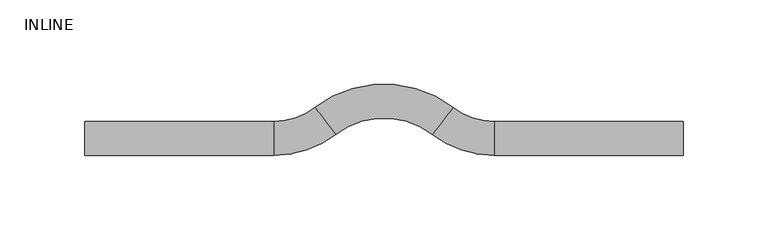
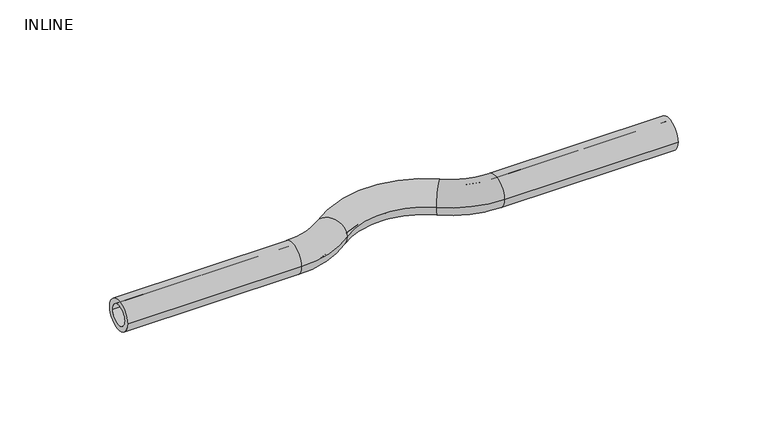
"""IFC4 building model written with IfcOpenShell, lengths in millimetres: pipe fitting geometry, Aquatherm - Cross Over : INLINE."""

import ifcopenshell
import ifcopenshell.guid

model = None  # the IFC model being written
_history = None  # IfcOwnerHistory: only IFC2X3 demands one
_inside = {}  # id of a spatial element -> (the spatial element, [elements in it])
_under = {}  # id of a project, library or spatial element -> (it, [spatial elements below it])
_declared = {}  # id of a project -> (the project, [libraries it declares])
_typed = {}  # id of a type object -> (the type object, [elements of that type])
_made_of = {}  # id of a material, layer set ... -> (it, [elements and type objects made of it])


def new_model(schema):
    """Start an empty IFC model of exactly this schema.

    Asked for "IFC4X3", IfcOpenShell would pick the latest addendum, in which some entities
    have other attributes; the version numbers below select the first issue.
    IFC2X3 requires an IfcOwnerHistory on every rooted entity: one is made here for all.
    """
    global model, _history
    if schema == "IFC4X3":
        model = ifcopenshell.file(schema_version=(4, 3, 0, 0))
    else:
        model = ifcopenshell.file(schema=schema)
    _inside.clear()
    _under.clear()
    _declared.clear()
    _typed.clear()
    _made_of.clear()
    _history = None
    if model.schema == "IFC2X3":
        org = make("IfcOrganization", Name="unknown")
        user = make(
            "IfcPersonAndOrganization",
            ThePerson=make("IfcPerson", FamilyName="unknown"),
            TheOrganization=org,
        )
        app = make(
            "IfcApplication",
            ApplicationDeveloper=org,
            Version="unknown",
            ApplicationFullName="unknown",
            ApplicationIdentifier="unknown",
        )
        _history = make(
            "IfcOwnerHistory",
            OwningUser=user,
            OwningApplication=app,
            ChangeAction="ADDED",
            CreationDate=0,
        )
    return model


def make(cls, **values):
    """One entity of the class cls with the attributes given. An attribute that is None is left unset."""
    return model.create_entity(
        cls, **{name: value for name, value in values.items() if value is not None}
    )


def rooted(cls, **values):
    """An entity with a GlobalId (a new one), such as an element, a storey or a relation."""
    return make(cls, GlobalId=ifcopenshell.guid.new(), OwnerHistory=_history, **values)


def si_unit(unit_type, name, prefix=None):
    """IfcSIUnit, for example si_unit("LENGTHUNIT", "METRE", prefix="MILLI")."""
    return make("IfcSIUnit", UnitType=unit_type, Prefix=prefix, Name=name)


def assignment(units):
    """IfcUnitAssignment: the units of a project."""
    return None if units is None else make("IfcUnitAssignment", Units=units)


def point(xyz):
    """IfcCartesianPoint."""
    return None if xyz is None else make("IfcCartesianPoint", Coordinates=xyz)


def direction(xyz):
    """IfcDirection."""
    return None if xyz is None else make("IfcDirection", DirectionRatios=xyz)


def frame(location, z_axis=None, x_axis=None):
    """IfcAxis2Placement3D, a coordinate frame: its origin and axes. An axis left out is left unset."""
    return make(
        "IfcAxis2Placement3D",
        Location=point(location),
        Axis=direction(z_axis),
        RefDirection=direction(x_axis),
    )


def origin():
    """The frame at (0, 0, 0) with its axes left unset."""
    return frame((0.0, 0.0, 0.0))


def place(relative_to, where):
    """IfcLocalPlacement: puts the frame where relative to a parent placement (None: the world)."""
    return make(
        "IfcLocalPlacement", PlacementRelTo=relative_to, RelativePlacement=where
    )


def context(
    kind, dimensions, precision=None, world=None, true_north=None, identifier=None
):
    """IfcGeometricRepresentationContext, for example the 3D "Model" context."""
    return make(
        "IfcGeometricRepresentationContext",
        ContextIdentifier=identifier,
        ContextType=kind,
        CoordinateSpaceDimension=dimensions,
        Precision=precision,
        WorldCoordinateSystem=world,
        TrueNorth=true_north,
    )


def project(units=None, contexts=None):
    """IfcProject with its units and contexts."""
    return rooted(
        "IfcProject",
        Name="project",
        RepresentationContexts=contexts,
        UnitsInContext=assignment(units),
    )


def spatial(cls, under=None, at=None, **own):
    """A site, building, storey or space (cls), placed at a placement, below another one or the project."""
    s = rooted(cls, ObjectPlacement=at, **own)
    if under is not None:
        _under.setdefault(under.id(), (under, []))[1].append(s)
    return s


def polyline(points):
    """IfcPolyline through the points."""
    return make("IfcPolyline", Points=[point(p) for p in points])


def circle_curve(where, radius):
    """IfcCircle in the frame where."""
    return make("IfcCircle", Position=where, Radius=radius)


def ellipse_curve(where, semi_axis1, semi_axis2):
    """IfcEllipse in the frame where."""
    return make(
        "IfcEllipse", Position=where, SemiAxis1=semi_axis1, SemiAxis2=semi_axis2
    )


def trimmed(basis, trim1, trim2, sense, master):
    """IfcTrimmedCurve: the piece of a basis curve between two trims."""
    return make(
        "IfcTrimmedCurve",
        BasisCurve=basis,
        Trim1=trim1,
        Trim2=trim2,
        SenseAgreement=sense,
        MasterRepresentation=master,
    )


def shape(context_of_items, identifier, shape_type, items):
    """IfcShapeRepresentation: the items that make up one representation, for example the "Body"."""
    return make(
        "IfcShapeRepresentation",
        ContextOfItems=context_of_items,
        RepresentationIdentifier=identifier,
        RepresentationType=shape_type,
        Items=items,
    )


def source(mapping_origin, context_of_items, identifier, shape_type, items):
    """IfcRepresentationMap: a shape defined once, which mapped items show again and again."""
    return make(
        "IfcRepresentationMap",
        MappingOrigin=mapping_origin,
        MappedRepresentation=shape(context_of_items, identifier, shape_type, items),
    )


def transform(
    local_origin,
    x_axis=None,
    y_axis=None,
    z_axis=None,
    scale=None,
    scale2=None,
    scale3=None,
    uniform=True,
):
    """IfcCartesianTransformationOperator3D, or its non-uniform kind. x_axis, y_axis, z_axis: its Axis1, 2, 3."""
    if uniform:
        return make(
            "IfcCartesianTransformationOperator3D",
            Axis1=direction(x_axis),
            Axis2=direction(y_axis),
            LocalOrigin=point(local_origin),
            Scale=scale,
            Axis3=direction(z_axis),
        )
    return make(
        "IfcCartesianTransformationOperator3DnonUniform",
        Axis1=direction(x_axis),
        Axis2=direction(y_axis),
        LocalOrigin=point(local_origin),
        Scale=scale,
        Axis3=direction(z_axis),
        Scale2=scale2,
        Scale3=scale3,
    )


def mapped(mapping_source, mapping_target):
    """IfcMappedItem: shows the shape of a source again, moved by a transform."""
    return make(
        "IfcMappedItem", MappingSource=mapping_source, MappingTarget=mapping_target
    )


def made_of(thing, what):
    """Note that an element or type object is made of a material, layer set ...; save() writes the relation."""
    if what is not None:
        _made_of.setdefault(what.id(), (what, []))[1].append(thing)
    return thing


def element(
    cls,
    number,
    at=None,
    inside=None,
    cuts=None,
    type_object=None,
    material=None,
    context=None,
    identifier="Body",
    shape_type=None,
    held_by="IfcProductDefinitionShape",
    body=None,
    shapes=None,
    **own,
):
    """One element of the class cls, such as IfcWall. Its Tag is "e" and its number.

    at: its placement. inside: the storey or other place that contains it. cuts: it is an
    opening in that element (IfcRelVoidsElement). A single representation is given by context,
    identifier, shape_type and body (its items); several are given by shapes. held_by: the class
    of the entity that holds the representations. save() writes the other relations.
    """
    e = rooted(cls, Tag="e%d" % number, ObjectPlacement=at, **own)
    if body is not None:
        shapes = [shape(context, identifier, shape_type, body)]
    if shapes is not None:
        e.Representation = make(held_by, Representations=shapes)
    if inside is not None:
        _inside.setdefault(inside.id(), (inside, []))[1].append(e)
    if cuts is not None:
        rooted(
            "IfcRelVoidsElement", RelatingBuildingElement=cuts, RelatedOpeningElement=e
        )
    if type_object is not None:
        _typed.setdefault(type_object.id(), (type_object, []))[1].append(e)
    return made_of(e, material)


def aggregate(whole, parts):
    """IfcRelAggregates: a whole, such as a stair, and the parts it consists of."""
    return rooted("IfcRelAggregates", RelatingObject=whole, RelatedObjects=parts)


def save(model, path):
    """Write the relations noted so far, then the file.

    IfcRelAggregates (storeys below a building ...), IfcRelContainedInSpatialStructure (elements
    in a storey), IfcRelDefinesByType, IfcRelAssociatesMaterial and IfcRelDeclares: one each for
    every whole, place, type object, material and project.
    """
    for whole, parts in _under.values():
        aggregate(whole, parts)
    for where, things in _inside.values():
        rooted(
            "IfcRelContainedInSpatialStructure",
            RelatedElements=things,
            RelatingStructure=where,
        )
    for kind, things in _typed.values():
        rooted("IfcRelDefinesByType", RelatedObjects=things, RelatingType=kind)
    for what, things in _made_of.values():
        rooted("IfcRelAssociatesMaterial", RelatedObjects=things, RelatingMaterial=what)
    for by, libraries in _declared.values():
        rooted("IfcRelDeclares", RelatingContext=by, RelatedDefinitions=libraries)
    model.write(path)


def plane_surface(at):
    """IfcPlane: the flat surface through the origin of the frame at, square to its z axis."""
    return make("IfcPlane", Position=at)


def cylinder_surface(at, radius):
    """IfcCylindricalSurface: all points at the distance radius from the z axis of the frame at."""
    return make("IfcCylindricalSurface", Position=at, Radius=radius)


def revolved_surface(curve, axis_point, axis_direction):
    """IfcSurfaceOfRevolution: the curve turned about the line through axis_point along axis_direction."""
    return make(
        "IfcSurfaceOfRevolution",
        SweptCurve=make("IfcArbitraryOpenProfileDef", ProfileType="CURVE", Curve=curve),
        AxisPosition=make("IfcAxis1Placement", Location=point(axis_point), Axis=direction(axis_direction)),
    )


def advanced_brep(points, edges, surfaces, faces):
    """IfcAdvancedBrep: a solid bounded by faces that lie on surfaces and meet in shared edges.

    An edge is (start, end): straight between two places in points (the first is 0);
    or (start, end, curve); or (start, end, curve, False) where it runs against its curve.
    A face is (place in surfaces, loops), or (place, loops, False) where it looks against
    its surface's normal. A loop lists edges by number (the first is 1), with a minus sign
    where the edge is run from its end to its start. The first loop is the outer one.
    """
    corners = [point(p) for p in points]
    vertices = [make("IfcVertexPoint", VertexGeometry=c) for c in corners]
    made = []
    for start, end, *more in edges:
        made.append(
            make(
                "IfcEdgeCurve",
                EdgeStart=vertices[start],
                EdgeEnd=vertices[end],
                EdgeGeometry=more[0] if more else make("IfcPolyline", Points=[corners[start], corners[end]]),
                SameSense=more[1] if len(more) > 1 else True,
            )
        )
    hull = []
    for where, loops, *sense in faces:
        bounds = []
        for j, loop in enumerate(loops):
            ring = [make("IfcOrientedEdge", EdgeElement=made[abs(k) - 1], Orientation=k > 0) for k in loop]
            bounds.append(
                make(
                    "IfcFaceOuterBound" if j == 0 else "IfcFaceBound",
                    Bound=make("IfcEdgeLoop", EdgeList=ring),
                    Orientation=True,
                )
            )
        hull.append(make("IfcAdvancedFace", Bounds=bounds, FaceSurface=surfaces[where], SameSense=sense[0] if sense else True))
    return make("IfcAdvancedBrep", Outer=make("IfcClosedShell", CfsFaces=hull))


def inline_3b5fefaf(model_context):
    return source(origin(), model_context, "Body", "AdvancedBrep", [
        advanced_brep(
        [(-176.53, -10.033, 0.0), (-176.53, 10.033, 0.0), (-176.53, -6.604, 0.0), (-176.53, 6.604, 0.0), (-65.097876, -6.604, 0.0), (-65.097876, 6.604, 0.0), (-65.097876, -10.033, 0.0), (-65.097876, 10.033, 0.0), (-38.656696, 15.5796722, 0.0), (-30.6161032, 5.1011164, 0.0), (-40.7441575, 18.3000665, 0.0), (-28.5286416, 2.3807221, 0.0), (38.656696, 15.5796722, 0.0), (30.6161032, 5.1011164, 0.0), (40.7441575, 18.3000665, 0.0), (28.5286416, 2.3807221, 0.0), (65.097876, 6.604, 0.0), (65.097876, -6.604, 0.0), (65.097876, 10.033, 0.0), (65.097876, -10.033, 0.0), (176.53, -10.033, 0.0), (176.53, 10.033, 0.0), (176.53, -6.604, 0.0), (176.53, 6.604, 0.0)],
        [
            (0, 1, circle_curve(frame((-176.53, 0.0, 0.0), z_axis=(-1.0, 0.0, 0.0), x_axis=(0.0, 1.0, 0.0)), 10.033)),
            (1, 0, circle_curve(frame((-176.53, 0.0, 0.0), z_axis=(-1.0, 0.0, 0.0), x_axis=(0.0, 1.0, 0.0)), 10.033)),
            (2, 3, circle_curve(frame((-176.53, 0.0, 0.0), z_axis=(1.0, 0.0, 0.0), x_axis=(0.0, 1.0, 0.0)), 6.604)),
            (3, 2, circle_curve(frame((-176.53, 0.0, 0.0), z_axis=(1.0, 0.0, 0.0), x_axis=(0.0, 1.0, 0.0)), 6.604)),
            (2, 4),
            (4, 5, circle_curve(frame((-65.097876, 0.0, 0.0), z_axis=(1.0, 0.0, 0.0), x_axis=(0.0, 1.0, 0.0)), 6.604)),
            (5, 3),
            (5, 4, circle_curve(frame((-65.097876, 0.0, 0.0), z_axis=(1.0, 0.0, 0.0), x_axis=(0.0, 1.0, 0.0)), 6.604)),
            (0, 6),
            (6, 7, circle_curve(frame((-65.097876, 0.0, 0.0), z_axis=(-1.0, 0.0, 0.0), x_axis=(0.0, 1.0, 0.0)), 10.033)),
            (7, 1),
            (7, 6, circle_curve(frame((-65.097876, 0.0, 0.0), z_axis=(-1.0, 0.0, 0.0), x_axis=(0.0, 1.0, 0.0)), 10.033)),
            (8, 5, circle_curve(frame((-65.097876, 50.038, 0.0), z_axis=(0.0, 0.0, -1.0), x_axis=(0.0, -1.0, 0.0)), 43.434)),
            (4, 9, circle_curve(frame((-65.097876, 50.038, 0.0), z_axis=(0.0, 0.0, 1.0), x_axis=(0.0, -1.0, 0.0)), 56.642)),
            (9, 8, circle_curve(frame((-34.6363996, 10.3403943, 0.0), z_axis=(0.7933491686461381, 0.6087668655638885, 0.0), x_axis=(-0.6087668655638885, 0.7933491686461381, 0.0)), 6.604)),
            (8, 9, circle_curve(frame((-34.6363996, 10.3403943, 0.0), z_axis=(0.7933491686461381, 0.6087668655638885, 0.0), x_axis=(-0.6087668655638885, 0.7933491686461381, 0.0)), 6.604)),
            (10, 7, circle_curve(frame((-65.097876, 50.038, 0.0), z_axis=(0.0, 0.0, -1.0), x_axis=(0.0, -1.0, 0.0)), 40.005)),
            (6, 11, circle_curve(frame((-65.097876, 50.038, 0.0), z_axis=(0.0, 0.0, 1.0), x_axis=(0.0, -1.0, 0.0)), 60.071)),
            (11, 10, circle_curve(frame((-34.6363996, 10.3403943, 0.0), z_axis=(-0.7933491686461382, -0.6087668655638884, 0.0), x_axis=(-0.6087668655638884, 0.7933491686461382, 0.0)), 10.033)),
            (10, 11, circle_curve(frame((-34.6363996, 10.3403943, 0.0), z_axis=(-0.7933491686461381, -0.6087668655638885, 0.0), x_axis=(-0.6087668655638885, 0.7933491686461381, 0.0)), 10.033)),
            (12, 8, circle_curve(frame((0.0, -34.798, 0.0), z_axis=(0.0, 0.0, 1.0), x_axis=(-0.6087668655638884, 0.7933491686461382, 0.0)), 63.5)),
            (9, 13, circle_curve(frame((0.0, -34.798, 0.0), z_axis=(0.0, 0.0, -1.0), x_axis=(-0.6087668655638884, 0.7933491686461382, 0.0)), 50.292)),
            (13, 12, circle_curve(frame((34.6363996, 10.3403943, 0.0), z_axis=(0.7933491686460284, -0.6087668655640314, 0.0), x_axis=(0.6087668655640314, 0.7933491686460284, 0.0)), 6.604)),
            (12, 13, circle_curve(frame((34.6363996, 10.3403943, 0.0), z_axis=(0.7933491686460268, -0.6087668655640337, 0.0), x_axis=(0.6087668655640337, 0.7933491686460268, 0.0)), 6.604)),
            (14, 10, circle_curve(frame((0.0, -34.798, 0.0), z_axis=(0.0, 0.0, 1.0), x_axis=(-0.6087668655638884, 0.7933491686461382, 0.0)), 66.929)),
            (11, 15, circle_curve(frame((0.0, -34.798, 0.0), z_axis=(0.0, 0.0, -1.0), x_axis=(-0.6087668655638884, 0.7933491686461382, 0.0)), 46.863)),
            (15, 14, circle_curve(frame((34.6363996, 10.3403943, 0.0), z_axis=(-0.793349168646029, 0.6087668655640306, 0.0), x_axis=(0.6087668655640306, 0.793349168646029, 0.0)), 10.033)),
            (14, 15, circle_curve(frame((34.6363996, 10.3403943, 0.0), z_axis=(-0.7933491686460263, 0.6087668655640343, 0.0), x_axis=(0.6087668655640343, 0.7933491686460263, 0.0)), 10.033)),
            (16, 12, circle_curve(frame((65.097876, 50.038, 0.0), z_axis=(0.0, 0.0, -1.0), x_axis=(-0.6087668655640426, -0.7933491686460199, 0.0)), 43.434)),
            (13, 17, circle_curve(frame((65.097876, 50.038, 0.0), z_axis=(0.0, 0.0, 1.0), x_axis=(-0.6087668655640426, -0.7933491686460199, 0.0)), 56.642)),
            (17, 16, circle_curve(frame((65.097876, 0.0, 0.0), z_axis=(1.0, 0.0, 0.0), x_axis=(0.0, 1.0, 0.0)), 6.604)),
            (16, 17, circle_curve(frame((65.097876, 0.0, 0.0), z_axis=(1.0, 0.0, 0.0), x_axis=(0.0, 1.0, 0.0)), 6.604)),
            (18, 14, circle_curve(frame((65.097876, 50.038, 0.0), z_axis=(0.0, 0.0, -1.0), x_axis=(-0.6087668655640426, -0.7933491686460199, 0.0)), 40.005)),
            (15, 19, circle_curve(frame((65.097876, 50.038, 0.0), z_axis=(0.0, 0.0, 1.0), x_axis=(-0.6087668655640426, -0.7933491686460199, 0.0)), 60.071)),
            (19, 18, circle_curve(frame((65.097876, 0.0, 0.0), z_axis=(-1.0, 0.0, 0.0), x_axis=(0.0, 1.0, 0.0)), 10.033)),
            (18, 19, circle_curve(frame((65.097876, 0.0, 0.0), z_axis=(-1.0, 0.0, 0.0), x_axis=(0.0, 1.0, 0.0)), 10.033)),
            (20, 21, circle_curve(frame((176.53, 0.0, 0.0), z_axis=(1.0, 0.0, 0.0), x_axis=(0.0, 1.0, 0.0)), 10.033)),
            (21, 20, circle_curve(frame((176.53, 0.0, 0.0), z_axis=(1.0, 0.0, 0.0), x_axis=(0.0, 1.0, 0.0)), 10.033)),
            (22, 23, circle_curve(frame((176.53, 0.0, 0.0), z_axis=(-1.0, 0.0, 0.0), x_axis=(0.0, 1.0, 0.0)), 6.604)),
            (23, 22, circle_curve(frame((176.53, 0.0, 0.0), z_axis=(-1.0, 0.0, 0.0), x_axis=(0.0, 1.0, 0.0)), 6.604)),
            (17, 22),
            (23, 16),
            (19, 20),
            (21, 18),
        ],
        [
            plane_surface(frame((-176.53, 0.0, 0.0), z_axis=(-1.0, 0.0, 0.0), x_axis=(0.0, 0.0, 1.0))),
            revolved_surface(polyline([(-65.097876, 6.604, 0.0), (-176.53, 6.604, 0.0)]), (-176.53, 0.0, 0.0), (1.0, 0.0, 0.0)),
            cylinder_surface(frame((-176.53, 0.0, 0.0), z_axis=(-1.0, 0.0, 0.0), x_axis=(0.0, 1.0, 0.0)), 10.033),
            revolved_surface(trimmed(ellipse_curve(frame((-65.097876, 0.0, 0.0), z_axis=(1.0, 0.0, 0.0), x_axis=(0.0, 1.0, 0.0)), 6.604, 6.604), [point((-65.097876, -6.604, 0.0))], [point((-65.097876, 6.604, 0.0))], True, "CARTESIAN"), (-65.097876, 50.038, 0.0), (0.0, 0.0, 1.0)),
            revolved_surface(trimmed(ellipse_curve(frame((-65.097876, 0.0, 0.0), z_axis=(1.0, 0.0, 0.0), x_axis=(0.0, 1.0, 0.0)), 6.604, 6.604), [point((-65.097876, 6.604, 0.0))], [point((-65.097876, -6.604, 0.0))], True, "CARTESIAN"), (-65.097876, 50.038, 0.0), (0.0, 0.0, 1.0)),
            revolved_surface(trimmed(ellipse_curve(frame((-65.097876, 0.0, 0.0), z_axis=(-1.0, 0.0, 0.0), x_axis=(0.0, 1.0, 0.0)), 10.033, 10.033), [point((-65.097876, -10.033, 0.0))], [point((-65.097876, 10.033, 0.0))], True, "CARTESIAN"), (-65.097876, 50.038, 0.0), (0.0, 0.0, 1.0)),
            revolved_surface(trimmed(ellipse_curve(frame((-65.097876, 0.0, 0.0), z_axis=(-1.0, 0.0, 0.0), x_axis=(0.0, 1.0, 0.0)), 10.033, 10.033), [point((-65.097876, 10.033, 0.0))], [point((-65.097876, -10.033, 0.0))], True, "CARTESIAN"), (-65.097876, 50.038, 0.0), (0.0, 0.0, 1.0)),
            revolved_surface(trimmed(ellipse_curve(frame((-34.6363996, 10.3403943, 0.0), z_axis=(0.7933491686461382, 0.6087668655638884, 0.0), x_axis=(-0.6087668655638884, 0.7933491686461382, 0.0)), 6.604, 6.604), [point((-30.6161032, 5.1011164, 0.0))], [point((-38.656696, 15.5796722, 0.0))], True, "CARTESIAN"), (0.0, -34.798, 0.0), (0.0, 0.0, -1.0)),
            revolved_surface(trimmed(ellipse_curve(frame((-34.6363996, 10.3403943, 0.0), z_axis=(0.7933491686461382, 0.6087668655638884, 0.0), x_axis=(-0.6087668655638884, 0.7933491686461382, 0.0)), 6.604, 6.604), [point((-38.656696, 15.5796722, 0.0))], [point((-30.6161032, 5.1011164, 0.0))], True, "CARTESIAN"), (0.0, -34.798, 0.0), (0.0, 0.0, -1.0)),
            revolved_surface(trimmed(ellipse_curve(frame((-34.6363996, 10.3403943, 0.0), z_axis=(-0.7933491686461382, -0.6087668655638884, 0.0), x_axis=(-0.6087668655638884, 0.7933491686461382, 0.0)), 10.033, 10.033), [point((-28.5286416, 2.3807221, 0.0))], [point((-40.7441575, 18.3000665, 0.0))], True, "CARTESIAN"), (0.0, -34.798, 0.0), (0.0, 0.0, -1.0)),
            revolved_surface(trimmed(ellipse_curve(frame((-34.6363996, 10.3403943, 0.0), z_axis=(-0.7933491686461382, -0.6087668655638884, 0.0), x_axis=(-0.6087668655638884, 0.7933491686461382, 0.0)), 10.033, 10.033), [point((-40.7441575, 18.3000665, 0.0))], [point((-28.5286416, 2.3807221, 0.0))], True, "CARTESIAN"), (0.0, -34.798, 0.0), (0.0, 0.0, -1.0)),
            revolved_surface(trimmed(ellipse_curve(frame((34.6363996, 10.3403943, 0.0), z_axis=(0.7933491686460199, -0.6087668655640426, 0.0), x_axis=(0.6087668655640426, 0.7933491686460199, 0.0)), 6.604, 6.604), [point((30.6161032, 5.1011164, 0.0))], [point((38.656696, 15.5796722, 0.0))], True, "CARTESIAN"), (65.097876, 50.038, 0.0), (0.0, 0.0, 1.0)),
            revolved_surface(trimmed(ellipse_curve(frame((34.6363996, 10.3403943, 0.0), z_axis=(0.7933491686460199, -0.6087668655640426, 0.0), x_axis=(0.6087668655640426, 0.7933491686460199, 0.0)), 6.604, 6.604), [point((38.656696, 15.5796722, 0.0))], [point((30.6161032, 5.1011164, 0.0))], True, "CARTESIAN"), (65.097876, 50.038, 0.0), (0.0, 0.0, 1.0)),
            revolved_surface(trimmed(ellipse_curve(frame((34.6363996, 10.3403943, 0.0), z_axis=(-0.7933491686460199, 0.6087668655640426, 0.0), x_axis=(0.6087668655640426, 0.7933491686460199, 0.0)), 10.033, 10.033), [point((28.5286416, 2.3807221, 0.0))], [point((40.7441575, 18.3000665, 0.0))], True, "CARTESIAN"), (65.097876, 50.038, 0.0), (0.0, 0.0, 1.0)),
            revolved_surface(trimmed(ellipse_curve(frame((34.6363996, 10.3403943, 0.0), z_axis=(-0.7933491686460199, 0.6087668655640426, 0.0), x_axis=(0.6087668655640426, 0.7933491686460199, 0.0)), 10.033, 10.033), [point((40.7441575, 18.3000665, 0.0))], [point((28.5286416, 2.3807221, 0.0))], True, "CARTESIAN"), (65.097876, 50.038, 0.0), (0.0, 0.0, 1.0)),
            plane_surface(frame((176.53, 0.0, 0.0), z_axis=(1.0, 0.0, 0.0), x_axis=(0.0, 0.0, 1.0))),
            revolved_surface(polyline([(176.53, 6.604, 0.0), (65.097876, 6.604, 0.0)]), (65.097876, 0.0, 0.0), (1.0, 0.0, 0.0)),
            cylinder_surface(frame((65.097876, 0.0, 0.0), z_axis=(-1.0, 0.0, 0.0), x_axis=(0.0, 1.0, 0.0)), 10.033),
        ],
        [
            (0, [[1, 2], [3, 4]]),
            (1, [[-3, 5, 6, 7]]),
            (1, [[-4, -7, 8, -5]]),
            (2, [[-1, 9, 10, 11]]),
            (2, [[-2, -11, 12, -9]]),
            (3, [[13, -6, 14, 15]]),
            (4, [[-14, -8, -13, 16]]),
            (5, [[17, -10, 18, 19]]),
            (6, [[-18, -12, -17, 20]]),
            (7, [[21, -15, 22, 23]]),
            (8, [[-22, -16, -21, 24]]),
            (9, [[25, -19, 26, 27]]),
            (10, [[-26, -20, -25, 28]]),
            (11, [[29, -23, 30, 31]]),
            (12, [[-30, -24, -29, 32]]),
            (13, [[33, -27, 34, 35]]),
            (14, [[-34, -28, -33, 36]]),
            (15, [[37, 38], [39, 40]]),
            (16, [[-31, 41, -40, 42]]),
            (16, [[-32, -42, -39, -41]]),
            (17, [[-35, 43, -38, 44]]),
            (17, [[-36, -44, -37, -43]]),
        ],
    ),
    ])


if __name__ == "__main__":
    model = new_model("IFC4")
    model_context = context("Model", 3, world=origin())
    ifc_project = project(units=[si_unit("LENGTHUNIT", "METRE", prefix="MILLI")], contexts=[model_context])
    site = spatial("IfcSite", under=ifc_project)
    building = spatial("IfcBuilding", under=site)
    placement = place(None, origin())
    inline_shape = inline_3b5fefaf(model_context)
    element("IfcPipeFitting", 1, ObjectType="Aquatherm - Cross Over : INLINE", at=placement, inside=building, context=model_context, shape_type="MappedRepresentation", body=[
        mapped(inline_shape, transform((0.0, 0.0, 0.0), x_axis=(1.0, 0.0, 0.0), y_axis=(0.0, 1.0, 0.0), z_axis=(0.0, 0.0, 1.0))),
    ])
    save(model, "model.ifc")
